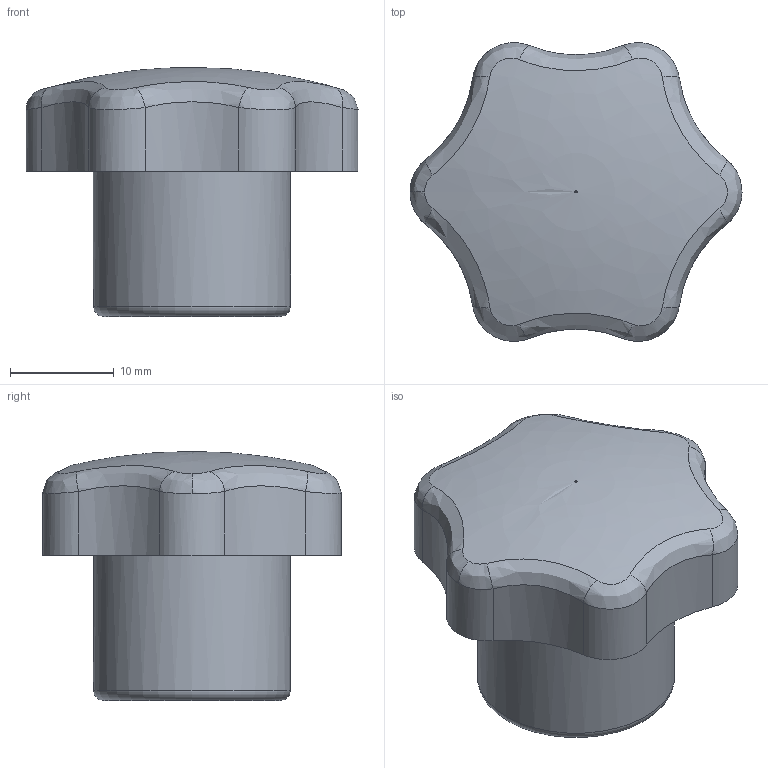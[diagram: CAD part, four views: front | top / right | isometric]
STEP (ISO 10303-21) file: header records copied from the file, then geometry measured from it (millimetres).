
FILE_DESCRIPTION( ('This file contains a STEP AP42 implementation' ,'as created by ZW3D STEP Interface translator.') ,'2;1' );
FILE_NAME( 'Rekojesc gwiazdowa typ C32.stp' ,'251222.101529', (''), ('ZWCAD Software Co.'), 'Version 1.0', 'ZW3D to STEP translator', '' );
FILE_SCHEMA(('AP242_MANAGED_MODEL_BASED_3D_ENGINEERING_MIM_LF { 1 0 10303 442 1 1 4 }'));
Length unit declared in the file: millimetre
Products named in the file (1): 0
Bounding box: 32 x 28.78 x 24 mm (x, y, z)
Volume: 8635.4 mm3; surface area: 5287.9 mm2
Topology: 2 solids, 2 shells, 86 faces, 228 edges, 146 vertices
Faces by surface type: plane 40, cylinder 15, bspline 14, torus 13, cone 4
Full cylindrical faces by diameter (mm): 6 x1, 19 x1, 25 x1
Entity records: 3628 total; most frequent: CARTESIAN_POINT 1574, ORIENTED_EDGE 450, DIRECTION 355, EDGE_CURVE 225, VERTEX_POINT 146, AXIS2_PLACEMENT_3D 132, VECTOR 91, LINE 91
